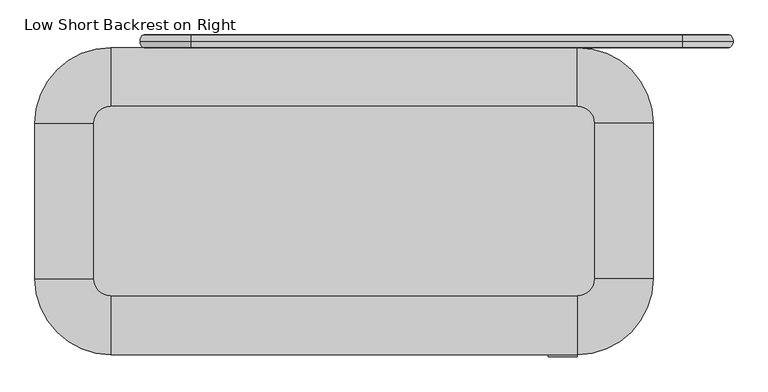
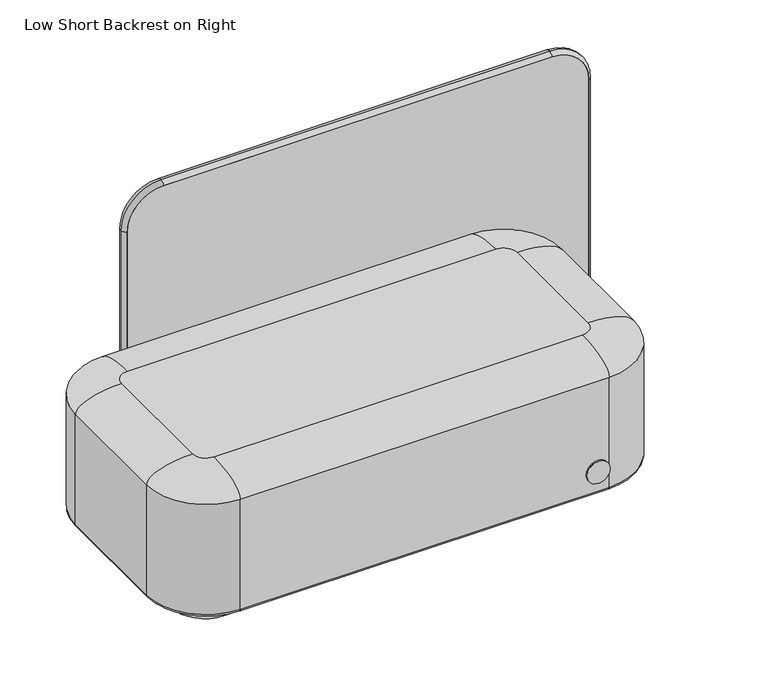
"""IFC4 building model written with IfcOpenShell, lengths in millimetres: furniture geometry, PODLounge  : Low Short Backrest on Right."""

from ifc_helpers import new_model, si_unit, point, frame, frame_2d, origin, origin_with_axes, place, context, project, spatial, polyline, circle_curve, ellipse_curve, trimmed, segment, composite_curve, outline, extrude, source, transform, mapped, element, save
from ifc_brep_helpers import plane_surface, cylinder_surface, revolved_surface, extruded_surface, advanced_brep


def low_short_backrest_on_right_28d253ee(model_context):
    return source(origin(), model_context, "Body", "SolidModel", [
        advanced_brep(
        [(-329.9999916, 380.0, 12.0), (-360.0000084, 380.0, 12.0), (-350.0, 380.0, 12.0), (-340.0, 380.0, 12.0), (-350.0, 380.0, 37.4784241), (-340.0, 380.0, 37.4784241), (-345.0, 380.0, 37.4784241), (-345.0, 380.0, 0.0), (-360.0000084, 380.0, 0.0), (-329.9999916, 380.0, 0.0)],
        [
            (0, 1, circle_curve(frame((-345.0, 380.0, 12.0), z_axis=(0.0, 0.0, 1.0), x_axis=(-1.0, 0.0, 0.0)), 15.0000084)),
            (1, 2),
            (2, 3, circle_curve(frame((-345.0, 380.0, 12.0), z_axis=(0.0, 0.0, -1.0), x_axis=(-1.0, 0.0, 0.0)), 5.0)),
            (3, 0),
            (1, 0, circle_curve(frame((-345.0, 380.0, 12.0), z_axis=(0.0, 0.0, 1.0), x_axis=(-1.0, 0.0, 0.0)), 15.0000084)),
            (3, 2, circle_curve(frame((-345.0, 380.0, 12.0), z_axis=(0.0, 0.0, -1.0), x_axis=(-1.0, 0.0, 0.0)), 5.0)),
            (2, 4),
            (4, 5, circle_curve(frame((-345.0, 380.0, 37.4784241), z_axis=(0.0, 0.0, -1.0), x_axis=(-1.0, 0.0, 0.0)), 5.0)),
            (5, 3),
            (5, 4, circle_curve(frame((-345.0, 380.0, 37.4784241), z_axis=(0.0, 0.0, -1.0), x_axis=(-1.0, 0.0, 0.0)), 5.0)),
            (4, 6),
            (6, 5),
            (7, 8),
            (8, 9, circle_curve(frame((-345.0, 380.0, 0.0), z_axis=(0.0, 0.0, -1.0), x_axis=(-1.0, 0.0, 0.0)), 15.0000084)),
            (9, 7),
            (9, 8, circle_curve(frame((-345.0, 380.0, 0.0), z_axis=(0.0, 0.0, -1.0), x_axis=(-1.0, 0.0, 0.0)), 15.0000084)),
            (8, 1),
            (0, 9),
        ],
        [
            plane_surface(frame((-345.0, 380.0, 12.0), z_axis=(0.0, 0.0, 1.0), x_axis=(-1.0, 0.0, 0.0))),
            cylinder_surface(frame((-345.0, 380.0, 37.4784241), z_axis=(0.0, 0.0, -1.0), x_axis=(-1.0, 0.0, 0.0)), 5.0),
            plane_surface(frame((-345.0, 380.0, 37.4784241), z_axis=(0.0, 0.0, 1.0), x_axis=(-1.0, 0.0, 0.0))),
            plane_surface(frame((-345.0, 380.0, 0.0), z_axis=(0.0, 0.0, -1.0), x_axis=(-1.0, 0.0, 0.0))),
            cylinder_surface(frame((-345.0, 380.0, 37.4784241), z_axis=(0.0, 0.0, -1.0), x_axis=(-1.0, 0.0, 0.0)), 15.0000084),
        ],
        [
            (0, [[1, 2, 3, 4]]),
            (0, [[5, -4, 6, -2]]),
            (1, [[-3, 7, 8, 9]]),
            (1, [[-6, -9, 10, -7]]),
            (2, [[-8, 11, 12]]),
            (2, [[-10, -12, -11]]),
            (3, [[13, 14, 15]]),
            (3, [[-15, 16, -13]]),
            (4, [[-14, 17, -1, 18]]),
            (4, [[-16, -18, -5, -17]]),
        ],
    ),
        advanced_brep(
        [(769.9999916, 380.0, 12.0), (780.0, 380.0, 12.0), (790.0, 380.0, 12.0), (800.0000084, 380.0, 12.0), (780.0, 380.0, 37.4784241), (790.0, 380.0, 37.4784241), (785.0, 380.0, 37.4784241), (785.0, 380.0, 0.0), (769.9999916, 380.0, 0.0), (800.0000084, 380.0, 0.0)],
        [
            (0, 1),
            (1, 2, circle_curve(frame((785.0, 380.0, 12.0), z_axis=(0.0, 0.0, -1.0), x_axis=(1.0, 0.0, 0.0)), 5.0)),
            (2, 3),
            (3, 0, circle_curve(frame((785.0, 380.0, 12.0), z_axis=(0.0, 0.0, 1.0), x_axis=(1.0, 0.0, 0.0)), 15.0000084)),
            (2, 1, circle_curve(frame((785.0, 380.0, 12.0), z_axis=(0.0, 0.0, -1.0), x_axis=(1.0, 0.0, 0.0)), 5.0)),
            (0, 3, circle_curve(frame((785.0, 380.0, 12.0), z_axis=(0.0, 0.0, 1.0), x_axis=(1.0, 0.0, 0.0)), 15.0000084)),
            (1, 4),
            (4, 5, circle_curve(frame((785.0, 380.0, 37.4784241), z_axis=(0.0, 0.0, -1.0), x_axis=(1.0, 0.0, 0.0)), 5.0)),
            (5, 2),
            (5, 4, circle_curve(frame((785.0, 380.0, 37.4784241), z_axis=(0.0, 0.0, -1.0), x_axis=(1.0, 0.0, 0.0)), 5.0)),
            (4, 6),
            (6, 5),
            (7, 8),
            (8, 9, circle_curve(frame((785.0, 380.0, 0.0), z_axis=(0.0, 0.0, -1.0), x_axis=(1.0, 0.0, 0.0)), 15.0000084)),
            (9, 7),
            (9, 8, circle_curve(frame((785.0, 380.0, 0.0), z_axis=(0.0, 0.0, -1.0), x_axis=(1.0, 0.0, 0.0)), 15.0000084)),
            (8, 0),
            (3, 9),
        ],
        [
            plane_surface(frame((785.0, 380.0, 12.0), z_axis=(0.0, 0.0, 1.0), x_axis=(1.0, 0.0, 0.0))),
            cylinder_surface(frame((785.0, 380.0, 37.4784241), z_axis=(0.0, 0.0, -1.0), x_axis=(1.0, 0.0, 0.0)), 5.0),
            plane_surface(frame((785.0, 380.0, 37.4784241), z_axis=(0.0, 0.0, 1.0), x_axis=(1.0, 0.0, 0.0))),
            plane_surface(frame((785.0, 380.0, 0.0), z_axis=(0.0, 0.0, -1.0), x_axis=(1.0, 0.0, 0.0))),
            cylinder_surface(frame((785.0, 380.0, 37.4784241), z_axis=(0.0, 0.0, -1.0), x_axis=(1.0, 0.0, 0.0)), 15.0000084),
        ],
        [
            (0, [[1, 2, 3, 4]]),
            (0, [[-3, 5, -1, 6]]),
            (1, [[7, 8, 9, -2]]),
            (1, [[-9, 10, -7, -5]]),
            (2, [[11, 12, -8]]),
            (2, [[-12, -11, -10]]),
            (3, [[13, 14, 15]]),
            (3, [[-15, 16, -13]]),
            (4, [[17, -4, 18, -14]]),
            (4, [[-18, -6, -17, -16]]),
        ],
    ),
        advanced_brep(
        [(915.0, 395.0, 790.0), (915.0, 365.0, 790.0), (805.0, 365.0, 900.0), (805.0, 395.0, 900.0), (915.0, 395.0, 150.0), (915.0, 365.0, 150.0), (805.0, 395.0, 40.0), (805.0, 365.0, 40.0), (-365.0, 395.0, 40.0), (-365.0, 365.0, 40.0), (-475.0, 395.0, 150.0), (-475.0, 365.0, 150.0), (-475.0, 395.0, 790.0), (-475.0, 365.0, 790.0), (-365.0, 395.0, 900.0), (-365.0, 365.0, 900.0), (924.9992342, 379.8143612, 790.0), (805.0, 379.8143612, 909.9992342), (924.9992342, 379.8143612, 150.0), (805.0, 379.8143612, 30.0007658), (-365.0, 379.8143612, 30.0007658), (-484.9992342, 379.8143612, 150.0), (-484.9992342, 379.8143612, 790.0), (-365.0, 379.8143612, 909.9992342)],
        [
            (0, 1),
            (1, 2, circle_curve(frame((805.0, 365.0, 790.0), z_axis=(0.0, -1.0, 0.0), x_axis=(0.0, 0.0, 1.0)), 110.0)),
            (2, 3),
            (3, 0, circle_curve(frame((805.0, 395.0, 790.0), z_axis=(0.0, 1.0, 0.0), x_axis=(0.0, 0.0, 1.0)), 110.0)),
            (0, 4),
            (4, 5),
            (5, 1),
            (6, 7),
            (7, 5, circle_curve(frame((805.0, 365.0, 150.0), z_axis=(0.0, -1.0, 0.0), x_axis=(1.0, 0.0, 0.0)), 110.0)),
            (4, 6, circle_curve(frame((805.0, 395.0, 150.0), z_axis=(0.0, 1.0, 0.0), x_axis=(1.0, 0.0, 0.0)), 110.0)),
            (6, 8),
            (8, 9),
            (9, 7),
            (10, 11),
            (11, 9, circle_curve(frame((-365.0, 365.0, 150.0), z_axis=(0.0, -1.0, 0.0), x_axis=(0.0, 0.0, -1.0)), 110.0)),
            (8, 10, circle_curve(frame((-365.0, 395.0, 150.0), z_axis=(0.0, 1.0, 0.0), x_axis=(0.0, 0.0, -1.0)), 110.0)),
            (10, 12),
            (12, 13),
            (13, 11),
            (14, 15),
            (15, 13, circle_curve(frame((-365.0, 365.0, 790.0), z_axis=(0.0, -1.0, 0.0), x_axis=(-1.0, 0.0, 0.0)), 110.0)),
            (12, 14, circle_curve(frame((-365.0, 395.0, 790.0), z_axis=(0.0, 1.0, 0.0), x_axis=(-1.0, 0.0, 0.0)), 110.0)),
            (14, 3),
            (2, 15),
            (16, 0, ellipse_curve(frame((915.0, 380.0, 790.0), z_axis=(0.0, 0.0, 1.0), x_axis=(0.0, 1.0, 0.0)), 15.0, 10.0)),
            (3, 17, ellipse_curve(frame((805.0, 380.0, 900.0), z_axis=(1.0, 0.0, 0.0), x_axis=(0.0, 1.0, 0.0)), 15.0, 10.0)),
            (17, 16, circle_curve(frame((805.0, 379.8143612, 790.0), z_axis=(0.0, 1.0, 0.0), x_axis=(0.0, 0.0, 1.0)), 119.9992342)),
            (1, 16, ellipse_curve(frame((915.0, 380.0, 790.0), z_axis=(0.0, 0.0, 1.0), x_axis=(0.0, 1.0, 0.0)), 15.0, 10.0)),
            (17, 2, ellipse_curve(frame((805.0, 380.0, 900.0), z_axis=(1.0, 0.0, 0.0), x_axis=(0.0, 1.0, 0.0)), 15.0, 10.0)),
            (16, 18),
            (18, 4, ellipse_curve(frame((915.0, 380.0, 150.0), z_axis=(0.0, 0.0, 1.0), x_axis=(0.0, 1.0, 0.0)), 15.0, 10.0)),
            (5, 18, ellipse_curve(frame((915.0, 380.0, 150.0), z_axis=(0.0, 0.0, 1.0), x_axis=(0.0, 1.0, 0.0)), 15.0, 10.0)),
            (19, 6, ellipse_curve(frame((805.0, 380.0, 40.0), z_axis=(1.0, 0.0, 0.0), x_axis=(0.0, 1.0, 0.0)), 15.0, 10.0)),
            (18, 19, circle_curve(frame((805.0, 379.8143612, 150.0), z_axis=(0.0, 1.0, 0.0), x_axis=(1.0, 0.0, 0.0)), 119.9992342)),
            (7, 19, ellipse_curve(frame((805.0, 380.0, 40.0), z_axis=(1.0, 0.0, 0.0), x_axis=(0.0, 1.0, 0.0)), 15.0, 10.0)),
            (19, 20),
            (20, 8, ellipse_curve(frame((-365.0, 380.0, 40.0), z_axis=(1.0, 0.0, 0.0), x_axis=(0.0, 1.0, 0.0)), 15.0, 10.0)),
            (9, 20, ellipse_curve(frame((-365.0, 380.0, 40.0), z_axis=(1.0, 0.0, 0.0), x_axis=(0.0, 1.0, 0.0)), 15.0, 10.0)),
            (21, 10, ellipse_curve(frame((-475.0, 380.0, 150.0), z_axis=(0.0, 0.0, -1.0), x_axis=(0.0, 1.0, 0.0)), 15.0, 10.0)),
            (20, 21, circle_curve(frame((-365.0, 379.8143612, 150.0), z_axis=(0.0, 1.0, 0.0), x_axis=(0.0, 0.0, -1.0)), 119.9992342)),
            (11, 21, ellipse_curve(frame((-475.0, 380.0, 150.0), z_axis=(0.0, 0.0, -1.0), x_axis=(0.0, 1.0, 0.0)), 15.0, 10.0)),
            (21, 22),
            (22, 12, ellipse_curve(frame((-475.0, 380.0, 790.0), z_axis=(0.0, 0.0, -1.0), x_axis=(0.0, 1.0, 0.0)), 15.0, 10.0)),
            (13, 22, ellipse_curve(frame((-475.0, 380.0, 790.0), z_axis=(0.0, 0.0, -1.0), x_axis=(0.0, 1.0, 0.0)), 15.0, 10.0)),
            (23, 14, ellipse_curve(frame((-365.0, 380.0, 900.0), z_axis=(-1.0, 0.0, 0.0), x_axis=(0.0, 1.0, 0.0)), 15.0, 10.0)),
            (22, 23, circle_curve(frame((-365.0, 379.8143612, 790.0), z_axis=(0.0, 1.0, 0.0), x_axis=(-1.0, 0.0, 0.0)), 119.9992342)),
            (15, 23, ellipse_curve(frame((-365.0, 380.0, 900.0), z_axis=(-1.0, 0.0, 0.0), x_axis=(0.0, 1.0, 0.0)), 15.0, 10.0)),
            (23, 17),
        ],
        [
            revolved_surface(polyline([(805.0, 365.0, 900.0), (805.0, 395.0, 900.0)]), (805.0, 395.0, 790.0), (0.0, -1.0, 0.0)),
            plane_surface(frame((915.0, 365.0, 790.0), z_axis=(-1.0, 0.0, 0.0), x_axis=(0.0, 0.0, -1.0))),
            revolved_surface(polyline([(915.0, 365.0, 150.0), (915.0, 395.0, 150.0)]), (805.0, 395.0, 150.0), (0.0, -1.0, 0.0)),
            plane_surface(frame((805.0, 365.0, 40.0), z_axis=(0.0, 0.0, 1.0), x_axis=(-1.0, 0.0, 0.0))),
            revolved_surface(polyline([(-365.0, 365.0, 40.0), (-365.0, 395.0, 40.0)]), (-365.0, 395.0, 150.0), (0.0, -1.0, 0.0)),
            plane_surface(frame((-475.0, 365.0, 150.0), z_axis=(1.0, 0.0, 0.0), x_axis=(0.0, 0.0, 1.0))),
            revolved_surface(polyline([(-475.0, 365.0, 790.0), (-475.0, 395.0, 790.0)]), (-365.0, 395.0, 790.0), (0.0, -1.0, 0.0)),
            plane_surface(frame((-365.0, 365.0, 900.0), z_axis=(0.0, 0.0, -1.0), x_axis=(1.0, 0.0, 0.0))),
            revolved_surface(trimmed(ellipse_curve(frame((805.0, 380.0, 900.0), z_axis=(1.0, 0.0, 0.0), x_axis=(0.0, 1.0, 0.0)), 15.0, 10.0), [point((805.0, 395.0, 900.0))], [point((805.0, 379.8143612, 909.9992342))], True, "CARTESIAN"), (805.0, 395.0, 790.0), (0.0, -1.0, 0.0)),
            revolved_surface(trimmed(ellipse_curve(frame((805.0, 380.0, 900.0), z_axis=(1.0, 0.0, 0.0), x_axis=(0.0, 1.0, 0.0)), 15.0, 10.0), [point((805.0, 379.8143612, 909.9992342))], [point((805.0, 365.0, 900.0))], True, "CARTESIAN"), (805.0, 395.0, 790.0), (0.0, -1.0, 0.0)),
            extruded_surface(trimmed(ellipse_curve(frame((915.0, 380.0, 790.0), z_axis=(0.0, 0.0, -1.0), x_axis=(0.0, 1.0, 0.0)), 15.0, 10.0), [point((915.0, 395.0, 790.0))], [point((924.9992342, 379.8143612, 790.0))], True, "CARTESIAN"), (0.0, 0.0, -640.0), 640.0),
            extruded_surface(trimmed(ellipse_curve(frame((915.0, 380.0, 790.0), z_axis=(0.0, 0.0, -1.0), x_axis=(0.0, 1.0, 0.0)), 15.0, 10.0), [point((924.9992342, 379.8143612, 790.0))], [point((915.0, 365.0, 790.0))], True, "CARTESIAN"), (0.0, 0.0, -640.0), 640.0),
            revolved_surface(trimmed(ellipse_curve(frame((915.0, 380.0, 150.0), z_axis=(0.0, 0.0, -1.0), x_axis=(0.0, 1.0, 0.0)), 15.0, 10.0), [point((915.0, 395.0, 150.0))], [point((924.9992342, 379.8143612, 150.0))], True, "CARTESIAN"), (805.0, 395.0, 150.0), (0.0, -1.0, 0.0)),
            revolved_surface(trimmed(ellipse_curve(frame((915.0, 380.0, 150.0), z_axis=(0.0, 0.0, -1.0), x_axis=(0.0, 1.0, 0.0)), 15.0, 10.0), [point((924.9992342, 379.8143612, 150.0))], [point((915.0, 365.0, 150.0))], True, "CARTESIAN"), (805.0, 395.0, 150.0), (0.0, -1.0, 0.0)),
            extruded_surface(trimmed(ellipse_curve(frame((805.0, 380.0, 40.0), z_axis=(-1.0, 0.0, 0.0), x_axis=(0.0, 1.0, 0.0)), 15.0, 10.0), [point((805.0, 395.0, 40.0))], [point((805.0, 379.8143612, 30.0007658))], True, "CARTESIAN"), (-1170.0, 0.0, 0.0), 1170.0),
            extruded_surface(trimmed(ellipse_curve(frame((805.0, 380.0, 40.0), z_axis=(-1.0, 0.0, 0.0), x_axis=(0.0, 1.0, 0.0)), 15.0, 10.0), [point((805.0, 379.8143612, 30.0007658))], [point((805.0, 365.0, 40.0))], True, "CARTESIAN"), (-1170.0, 0.0, 0.0), 1170.0),
            revolved_surface(trimmed(ellipse_curve(frame((-365.0, 380.0, 40.0), z_axis=(-1.0, 0.0, 0.0), x_axis=(0.0, 1.0, 0.0)), 15.0, 10.0), [point((-365.0, 395.0, 40.0))], [point((-365.0, 379.8143612, 30.0007658))], True, "CARTESIAN"), (-365.0, 395.0, 150.0), (0.0, -1.0, 0.0)),
            revolved_surface(trimmed(ellipse_curve(frame((-365.0, 380.0, 40.0), z_axis=(-1.0, 0.0, 0.0), x_axis=(0.0, 1.0, 0.0)), 15.0, 10.0), [point((-365.0, 379.8143612, 30.0007658))], [point((-365.0, 365.0, 40.0))], True, "CARTESIAN"), (-365.0, 395.0, 150.0), (0.0, -1.0, 0.0)),
            extruded_surface(trimmed(ellipse_curve(frame((-475.0, 380.0, 150.0), z_axis=(0.0, 0.0, 1.0), x_axis=(0.0, 1.0, 0.0)), 15.0, 10.0), [point((-475.0, 395.0, 150.0))], [point((-484.9992342, 379.8143612, 150.0))], True, "CARTESIAN"), (0.0, 0.0, 640.0), 640.0),
            extruded_surface(trimmed(ellipse_curve(frame((-475.0, 380.0, 150.0), z_axis=(0.0, 0.0, 1.0), x_axis=(0.0, 1.0, 0.0)), 15.0, 10.0), [point((-484.9992342, 379.8143612, 150.0))], [point((-475.0, 365.0, 150.0))], True, "CARTESIAN"), (0.0, 0.0, 640.0), 640.0),
            revolved_surface(trimmed(ellipse_curve(frame((-475.0, 380.0, 790.0), z_axis=(0.0, 0.0, 1.0), x_axis=(0.0, 1.0, 0.0)), 15.0, 10.0), [point((-475.0, 395.0, 790.0))], [point((-484.9992342, 379.8143612, 790.0))], True, "CARTESIAN"), (-365.0, 395.0, 790.0), (0.0, -1.0, 0.0)),
            revolved_surface(trimmed(ellipse_curve(frame((-475.0, 380.0, 790.0), z_axis=(0.0, 0.0, 1.0), x_axis=(0.0, 1.0, 0.0)), 15.0, 10.0), [point((-484.9992342, 379.8143612, 790.0))], [point((-475.0, 365.0, 790.0))], True, "CARTESIAN"), (-365.0, 395.0, 790.0), (0.0, -1.0, 0.0)),
            extruded_surface(trimmed(ellipse_curve(frame((-365.0, 380.0, 900.0), z_axis=(1.0, 0.0, 0.0), x_axis=(0.0, 1.0, 0.0)), 15.0, 10.0), [point((-365.0, 395.0, 900.0))], [point((-365.0, 379.8143612, 909.9992342))], True, "CARTESIAN"), (1170.0, 0.0, 0.0), 1170.0),
            extruded_surface(trimmed(ellipse_curve(frame((-365.0, 380.0, 900.0), z_axis=(1.0, 0.0, 0.0), x_axis=(0.0, 1.0, 0.0)), 15.0, 10.0), [point((-365.0, 379.8143612, 909.9992342))], [point((-365.0, 365.0, 900.0))], True, "CARTESIAN"), (1170.0, 0.0, 0.0), 1170.0),
        ],
        [
            (0, [[1, 2, 3, 4]]),
            (1, [[5, 6, 7, -1]]),
            (2, [[8, 9, -6, 10]]),
            (3, [[11, 12, 13, -8]]),
            (4, [[14, 15, -12, 16]]),
            (5, [[17, 18, 19, -14]]),
            (6, [[20, 21, -18, 22]]),
            (7, [[23, -3, 24, -20]]),
            (8, [[25, -4, 26, 27]]),
            (9, [[28, -27, 29, -2]]),
            (10, [[30, 31, -5, -25]]),
            (11, [[-7, 32, -30, -28]]),
            (12, [[33, -10, -31, 34]]),
            (13, [[35, -34, -32, -9]]),
            (14, [[36, 37, -11, -33]]),
            (15, [[-13, 38, -36, -35]]),
            (16, [[39, -16, -37, 40]]),
            (17, [[41, -40, -38, -15]]),
            (18, [[42, 43, -17, -39]]),
            (19, [[-19, 44, -42, -41]]),
            (20, [[45, -22, -43, 46]]),
            (21, [[47, -46, -44, -21]]),
            (22, [[48, -26, -23, -45]]),
            (23, [[-24, -29, -48, -47]]),
        ],
    ),
        extrude(outline(composite_curve([segment(polyline([(900.0, 805.0), (900.0, -365.0)]), True, "CONTINUOUS"), segment(trimmed(circle_curve(frame_2d((790.0, -365.0)), 110.0), [point((900.0, -365.0))], [point((790.0, -475.0))], False, "CARTESIAN"), True, "CONTINUOUS"), segment(polyline([(790.0, -475.0), (150.0, -475.0)]), True, "CONTINUOUS"), segment(trimmed(circle_curve(frame_2d((150.0, -365.0)), 110.0), [point((150.0, -475.0))], [point((40.0, -365.0))], False, "CARTESIAN"), True, "CONTINUOUS"), segment(polyline([(40.0, -365.0), (40.0, 805.0)]), True, "CONTINUOUS"), segment(trimmed(circle_curve(frame_2d((150.0, 805.0)), 110.0), [point((40.0, 805.0))], [point((150.0, 915.0))], False, "CARTESIAN"), True, "CONTINUOUS"), segment(polyline([(150.0, 915.0), (790.0, 915.0)]), True, "CONTINUOUS"), segment(trimmed(circle_curve(frame_2d((790.0, 805.0)), 110.0), [point((790.0, 915.0))], [point((900.0, 805.0))], False, "CARTESIAN"), True, "CONTINUOUS")], self_intersect=False)), frame((0.0, 365.0, 0.0), z_axis=(0.0, 1.0, 0.0), x_axis=(0.0, 0.0, 1.0)), (0.0, 0.0, 1.0), 30.0),
        advanced_brep(
        [(-555.0, 225.0, 460.0), (-595.0, 185.0, 460.0), (-595.0, -185.0, 460.0), (-555.0, -225.0, 460.0), (555.0, -225.0, 460.0), (595.0, -185.0, 460.0), (595.0, 185.0, 460.0), (555.0, 225.0, 460.0), (-725.0, 185.0, 50.0), (-555.0, 355.0, 50.0), (555.0, 355.0, 50.0), (725.0, 185.0, 50.0), (725.0, -185.0, 50.0), (555.0, -355.0, 50.0), (-555.0, -355.0, 50.0), (-725.0, -185.0, 50.0), (555.0, -365.0, 410.0), (555.0, -365.0, 60.0), (735.0, -185.0, 60.0), (735.0, -185.0, 410.0), (735.0, 185.0, 60.0), (735.0, 185.0, 410.0), (555.0, 365.0, 60.0), (555.0, 365.0, 410.0), (-555.0, 365.0, 60.0), (-555.0, 365.0, 410.0), (-735.0, 185.0, 410.0), (-735.0, 185.0, 60.0), (-735.0, -185.0, 60.0), (-735.0, -185.0, 410.0), (-555.0, -365.0, 410.0), (-555.0, -365.0, 60.0)],
        [
            (0, 1, circle_curve(frame((-555.0, 185.0, 460.0), z_axis=(0.0, 0.0, 1.0), x_axis=(0.0, 1.0, 0.0)), 40.0)),
            (1, 2),
            (2, 3, circle_curve(frame((-555.0, -185.0, 460.0), z_axis=(0.0, 0.0, 1.0), x_axis=(-1.0, 0.0, 0.0)), 40.0)),
            (3, 4),
            (4, 5, circle_curve(frame((555.0, -185.0, 460.0), z_axis=(0.0, 0.0, 1.0), x_axis=(0.0, -1.0, 0.0)), 40.0)),
            (5, 6),
            (6, 7, circle_curve(frame((555.0, 185.0, 460.0), z_axis=(0.0, 0.0, 1.0), x_axis=(1.0, 0.0, 0.0)), 40.0)),
            (7, 0),
            (8, 9, circle_curve(frame((-555.0, 185.0, 50.0), z_axis=(0.0, 0.0, -1.0), x_axis=(0.0, 1.0, 0.0)), 170.0)),
            (9, 10),
            (10, 11, circle_curve(frame((555.0, 185.0, 50.0), z_axis=(0.0, 0.0, -1.0), x_axis=(1.0, 0.0, 0.0)), 170.0)),
            (11, 12),
            (12, 13, circle_curve(frame((555.0, -185.0, 50.0), z_axis=(0.0, 0.0, -1.0), x_axis=(0.0, -1.0, 0.0)), 170.0)),
            (13, 14),
            (14, 15, circle_curve(frame((-555.0, -185.0, 50.0), z_axis=(0.0, 0.0, -1.0), x_axis=(-1.0, 0.0, 0.0)), 170.0)),
            (15, 8),
            (16, 17),
            (17, 18, circle_curve(frame((555.0, -185.0, 60.0), z_axis=(0.0, 0.0, 1.0), x_axis=(1.0, 0.0, 0.0)), 180.0)),
            (18, 19),
            (19, 16, circle_curve(frame((555.0, -185.0, 410.0), z_axis=(0.0, 0.0, -1.0), x_axis=(1.0, 0.0, 0.0)), 180.0)),
            (18, 20),
            (20, 21),
            (21, 19),
            (20, 22, circle_curve(frame((555.0, 185.0, 60.0), z_axis=(0.0, 0.0, 1.0), x_axis=(1.0, 0.0, 0.0)), 180.0)),
            (22, 23),
            (23, 21, circle_curve(frame((555.0, 185.0, 410.0), z_axis=(0.0, 0.0, -1.0), x_axis=(1.0, 0.0, 0.0)), 180.0)),
            (22, 24),
            (24, 25),
            (25, 23),
            (26, 27),
            (27, 28),
            (28, 29),
            (29, 26),
            (16, 30),
            (30, 31),
            (31, 17),
            (26, 25, circle_curve(frame((-555.0, 185.0, 410.0), z_axis=(0.0, 0.0, -1.0), x_axis=(1.0, 0.0, 0.0)), 180.0)),
            (24, 27, circle_curve(frame((-555.0, 185.0, 60.0), z_axis=(0.0, 0.0, 1.0), x_axis=(1.0, 0.0, 0.0)), 180.0)),
            (30, 29, circle_curve(frame((-555.0, -185.0, 410.0), z_axis=(0.0, 0.0, -1.0), x_axis=(1.0, 0.0, 0.0)), 180.0)),
            (28, 31, circle_curve(frame((-555.0, -185.0, 60.0), z_axis=(0.0, 0.0, 1.0), x_axis=(1.0, 0.0, 0.0)), 180.0)),
            (26, 1, ellipse_curve(frame((-595.0, 185.0, 410.0), z_axis=(0.0, 1.0, 0.0), x_axis=(-1.0, 0.0, 0.0)), 140.0, 50.0)),
            (0, 25, ellipse_curve(frame((-555.0, 225.0, 410.0), z_axis=(-1.0, 0.0, 0.0), x_axis=(0.0, 1.0, 0.0)), 140.0, 50.0)),
            (29, 2, ellipse_curve(frame((-595.0, -185.0, 410.0), z_axis=(0.0, 1.0, 0.0), x_axis=(-1.0, 0.0, 0.0)), 140.0, 50.0)),
            (30, 3, ellipse_curve(frame((-555.0, -225.0, 410.0), z_axis=(-1.0, 0.0, 0.0), x_axis=(0.0, -1.0, 0.0)), 140.0, 50.0)),
            (16, 4, ellipse_curve(frame((555.0, -225.0, 410.0), z_axis=(-1.0, 0.0, 0.0), x_axis=(0.0, -1.0, 0.0)), 140.0, 50.0)),
            (19, 5, ellipse_curve(frame((595.0, -185.0, 410.0), z_axis=(0.0, -1.0, 0.0), x_axis=(1.0, 0.0, 0.0)), 140.0, 50.0)),
            (21, 6, ellipse_curve(frame((595.0, 185.0, 410.0), z_axis=(0.0, -1.0, 0.0), x_axis=(1.0, 0.0, 0.0)), 140.0, 50.0)),
            (23, 7, ellipse_curve(frame((555.0, 225.0, 410.0), z_axis=(1.0, 0.0, 0.0), x_axis=(0.0, 1.0, 0.0)), 140.0, 50.0)),
            (8, 27, circle_curve(frame((-725.0, 185.0, 60.0), z_axis=(0.0, 1.0, 0.0), x_axis=(1.0, 0.0, 0.0)), 10.0)),
            (24, 9, circle_curve(frame((-555.0, 355.0, 60.0), z_axis=(-1.0, 0.0, 0.0), x_axis=(0.0, -1.0, 0.0)), 10.0)),
            (15, 28, circle_curve(frame((-725.0, -185.0, 60.0), z_axis=(0.0, 1.0, 0.0), x_axis=(1.0, 0.0, 0.0)), 10.0)),
            (14, 31, circle_curve(frame((-555.0, -355.0, 60.0), z_axis=(-1.0, 0.0, 0.0), x_axis=(0.0, 1.0, 0.0)), 10.0)),
            (13, 17, circle_curve(frame((555.0, -355.0, 60.0), z_axis=(-1.0, 0.0, 0.0), x_axis=(0.0, 1.0, 0.0)), 10.0)),
            (12, 18, circle_curve(frame((725.0, -185.0, 60.0), z_axis=(0.0, -1.0, 0.0), x_axis=(-1.0, 0.0, 0.0)), 10.0)),
            (11, 20, circle_curve(frame((725.0, 185.0, 60.0), z_axis=(0.0, -1.0, 0.0), x_axis=(-1.0, 0.0, 0.0)), 10.0)),
            (10, 22, circle_curve(frame((555.0, 355.0, 60.0), z_axis=(1.0, 0.0, 0.0), x_axis=(0.0, -1.0, 0.0)), 10.0)),
        ],
        [
            plane_surface(frame((735.0, -185.0, 460.0), z_axis=(0.0, 0.0, 1.0), x_axis=(0.0, 1.0, 0.0))),
            plane_surface(frame((735.0, -185.0, 50.0), z_axis=(0.0, 0.0, -1.0), x_axis=(0.0, -1.0, 0.0))),
            cylinder_surface(frame((555.0, -185.0, 50.0), z_axis=(0.0, 0.0, 1.0), x_axis=(1.0, 0.0, 0.0)), 180.0),
            plane_surface(frame((735.0, -185.0, 460.0), z_axis=(1.0, 0.0, 0.0), x_axis=(0.0, 0.0, -1.0))),
            cylinder_surface(frame((555.0, 185.0, 50.0), z_axis=(0.0, 0.0, 1.0), x_axis=(1.0, 0.0, 0.0)), 180.0),
            plane_surface(frame((555.0, 365.0, 460.0), z_axis=(0.0, 1.0, 0.0), x_axis=(0.0, 0.0, -1.0))),
            plane_surface(frame((-735.0, 185.0, 460.0), z_axis=(-1.0, 0.0, 0.0), x_axis=(0.0, 0.0, -1.0))),
            plane_surface(frame((-555.0, -365.0, 460.0), z_axis=(0.0, -1.0, 0.0), x_axis=(0.0, 0.0, -1.0))),
            cylinder_surface(frame((-555.0, 185.0, 50.0), z_axis=(0.0, 0.0, 1.0), x_axis=(1.0, 0.0, 0.0)), 180.0),
            cylinder_surface(frame((-555.0, -185.0, 50.0), z_axis=(0.0, 0.0, 1.0), x_axis=(1.0, 0.0, 0.0)), 180.0),
            revolved_surface(trimmed(ellipse_curve(frame((-555.0, 225.0, 410.0), z_axis=(1.0, 0.0, 0.0), x_axis=(0.0, 1.0, 0.0)), 140.0, 50.0), [point((-555.0, 365.0, 410.0))], [point((-555.0, 225.0, 460.0))], True, "CARTESIAN"), (-555.0, 185.0, 0.0), (0.0, 0.0, 1.0)),
            extruded_surface(trimmed(ellipse_curve(frame((-595.0, 185.0, 410.0), z_axis=(0.0, -1.0, 0.0), x_axis=(-1.0, 0.0, 0.0)), 140.0, 50.0), [point((-595.0, 185.0, 460.0))], [point((-735.0, 185.0, 410.0))], True, "CARTESIAN"), (0.0, -370.0, 0.0), 370.0),
            revolved_surface(trimmed(ellipse_curve(frame((-595.0, -185.0, 410.0), z_axis=(0.0, 1.0, 0.0), x_axis=(-1.0, 0.0, 0.0)), 140.0, 50.0), [point((-735.0, -185.0, 410.0))], [point((-595.0, -185.0, 460.0))], True, "CARTESIAN"), (-555.0, -185.0, 0.0), (0.0, 0.0, 1.0)),
            extruded_surface(trimmed(ellipse_curve(frame((-555.0, -225.0, 410.0), z_axis=(1.0, 0.0, 0.0), x_axis=(0.0, -1.0, 0.0)), 140.0, 50.0), [point((-555.0, -225.0, 460.0))], [point((-555.0, -365.0, 410.0))], True, "CARTESIAN"), (1110.0, 0.0, 0.0), 1110.0),
            revolved_surface(trimmed(ellipse_curve(frame((555.0, -225.0, 410.0), z_axis=(-1.0, 0.0, 0.0), x_axis=(0.0, -1.0, 0.0)), 140.0, 50.0), [point((555.0, -365.0, 410.0))], [point((555.0, -225.0, 460.0))], True, "CARTESIAN"), (555.0, -185.0, 0.0), (0.0, 0.0, 1.0)),
            extruded_surface(trimmed(ellipse_curve(frame((595.0, -185.0, 410.0), z_axis=(0.0, 1.0, 0.0), x_axis=(1.0, 0.0, 0.0)), 140.0, 50.0), [point((595.0, -185.0, 460.0))], [point((735.0, -185.0, 410.0))], True, "CARTESIAN"), (0.0, 370.0, 0.0), 370.0),
            revolved_surface(trimmed(ellipse_curve(frame((595.0, 185.0, 410.0), z_axis=(0.0, -1.0, 0.0), x_axis=(1.0, 0.0, 0.0)), 140.0, 50.0), [point((735.0, 185.0, 410.0))], [point((595.0, 185.0, 460.0))], True, "CARTESIAN"), (555.0, 185.0, 0.0), (0.0, 0.0, 1.0)),
            extruded_surface(trimmed(ellipse_curve(frame((555.0, 225.0, 410.0), z_axis=(-1.0, 0.0, 0.0), x_axis=(0.0, 1.0, 0.0)), 140.0, 50.0), [point((555.0, 225.0, 460.0))], [point((555.0, 365.0, 410.0))], True, "CARTESIAN"), (-1110.0, 0.0, 0.0), 1110.0),
            revolved_surface(trimmed(ellipse_curve(frame((-555.0, 355.0, 60.0), z_axis=(1.0, 0.0, 0.0), x_axis=(0.0, -1.0, 0.0)), 10.0, 10.0), [point((-555.0, 355.0, 50.0))], [point((-555.0, 365.0, 60.0))], True, "CARTESIAN"), (-555.0, 185.0, 0.0), (0.0, 0.0, 1.0)),
            cylinder_surface(frame((-725.0, 185.0, 60.0), z_axis=(0.0, -1.0, 0.0), x_axis=(1.0, 0.0, 0.0)), 10.0),
            revolved_surface(trimmed(ellipse_curve(frame((-725.0, -185.0, 60.0), z_axis=(0.0, 1.0, 0.0), x_axis=(1.0, 0.0, 0.0)), 10.0, 10.0), [point((-725.0, -185.0, 50.0))], [point((-735.0, -185.0, 60.0))], True, "CARTESIAN"), (-555.0, -185.0, 0.0), (0.0, 0.0, 1.0)),
            cylinder_surface(frame((-555.0, -355.0, 60.0), z_axis=(1.0, 0.0, 0.0), x_axis=(0.0, 1.0, 0.0)), 10.0),
            revolved_surface(trimmed(ellipse_curve(frame((555.0, -355.0, 60.0), z_axis=(-1.0, 0.0, 0.0), x_axis=(0.0, 1.0, 0.0)), 10.0, 10.0), [point((555.0, -355.0, 50.0))], [point((555.0, -365.0, 60.0))], True, "CARTESIAN"), (555.0, -185.0, 0.0), (0.0, 0.0, 1.0)),
            cylinder_surface(frame((725.0, -185.0, 60.0), z_axis=(0.0, 1.0, 0.0), x_axis=(-1.0, 0.0, 0.0)), 10.0),
            revolved_surface(trimmed(ellipse_curve(frame((725.0, 185.0, 60.0), z_axis=(0.0, -1.0, 0.0), x_axis=(-1.0, 0.0, 0.0)), 10.0, 10.0), [point((725.0, 185.0, 50.0))], [point((735.0, 185.0, 60.0))], True, "CARTESIAN"), (555.0, 185.0, 0.0), (0.0, 0.0, 1.0)),
            cylinder_surface(frame((555.0, 355.0, 60.0), z_axis=(-1.0, 0.0, 0.0), x_axis=(0.0, -1.0, 0.0)), 10.0),
        ],
        [
            (0, [[1, 2, 3, 4, 5, 6, 7, 8]]),
            (1, [[9, 10, 11, 12, 13, 14, 15, 16]]),
            (2, [[17, 18, 19, 20]]),
            (3, [[-19, 21, 22, 23]]),
            (4, [[-22, 24, 25, 26]]),
            (5, [[-25, 27, 28, 29]]),
            (6, [[30, 31, 32, 33]]),
            (7, [[-17, 34, 35, 36]]),
            (8, [[-30, 37, -28, 38]]),
            (9, [[-35, 39, -32, 40]]),
            (10, [[41, -1, 42, -37]]),
            (11, [[-41, -33, 43, -2]]),
            (12, [[-43, -39, 44, -3]]),
            (13, [[-44, -34, 45, -4]]),
            (14, [[-45, -20, 46, -5]]),
            (15, [[-46, -23, 47, -6]]),
            (16, [[-47, -26, 48, -7]]),
            (17, [[-42, -8, -48, -29]]),
            (18, [[49, -38, 50, -9]]),
            (19, [[-49, -16, 51, -31]]),
            (20, [[-51, -15, 52, -40]]),
            (21, [[-52, -14, 53, -36]]),
            (22, [[-53, -13, 54, -18]]),
            (23, [[-54, -12, 55, -21]]),
            (24, [[-55, -11, 56, -24]]),
            (25, [[-50, -27, -56, -10]]),
        ],
    ),
        extrude(outline(composite_curve([segment(polyline([(565.0, -295.0), (-565.0, -295.0)]), True, "CONTINUOUS"), segment(trimmed(circle_curve(frame_2d((-565.0, -195.0)), 100.0), [point((-565.0, -295.0))], [point((-665.0, -195.0))], False, "CARTESIAN"), True, "CONTINUOUS"), segment(polyline([(-665.0, -195.0), (-665.0, 195.0)]), True, "CONTINUOUS"), segment(trimmed(circle_curve(frame_2d((-565.0, 195.0)), 100.0), [point((-665.0, 195.0))], [point((-565.0, 295.0))], False, "CARTESIAN"), True, "CONTINUOUS"), segment(polyline([(-565.0, 295.0), (565.0, 295.0)]), True, "CONTINUOUS"), segment(trimmed(circle_curve(frame_2d((565.0, 195.0)), 100.0), [point((565.0, 295.0))], [point((665.0, 195.0))], False, "CARTESIAN"), True, "CONTINUOUS"), segment(polyline([(665.0, 195.0), (665.0, -195.0)]), True, "CONTINUOUS"), segment(trimmed(circle_curve(frame_2d((565.0, -195.0)), 100.0), [point((665.0, -195.0))], [point((565.0, -295.0))], False, "CARTESIAN"), True, "CONTINUOUS")], self_intersect=False)), origin_with_axes(), (0.0, 0.0, 1.0), 50.0),
        extrude(outline(composite_curve([segment(trimmed(circle_curve(frame_2d((122.8625944, 520.0)), 35.0), [point((122.8625944, 555.0))], [point((122.8625944, 485.0))], False, "CARTESIAN"), True, "CONTINUOUS"), segment(trimmed(circle_curve(frame_2d((122.8625944, 520.0)), 35.0), [point((122.8625944, 485.0))], [point((122.8625944, 555.0))], False, "CARTESIAN"), True, "CONTINUOUS")], self_intersect=False)), frame((0.0, -370.0, 0.0), z_axis=(0.0, 1.0, 0.0), x_axis=(0.0, 0.0, 1.0)), (0.0, 0.0, 1.0), 5.0),
    ])


if __name__ == "__main__":
    model = new_model("IFC4")
    model_context = context("Model", 3, world=origin())
    ifc_project = project(units=[si_unit("LENGTHUNIT", "METRE", prefix="MILLI")], contexts=[model_context])
    site = spatial("IfcSite", under=ifc_project)
    building = spatial("IfcBuilding", under=site)
    placement = place(None, origin())
    low_short_backrest_on_right_shape = low_short_backrest_on_right_28d253ee(model_context)
    element("IfcFurniture", 1, ObjectType="PODLounge  : Low Short Backrest on Right", at=placement, inside=building, context=model_context, shape_type="MappedRepresentation", body=[
        mapped(low_short_backrest_on_right_shape, transform((0.0, 0.0, 0.0), x_axis=(1.0, 0.0, 0.0), y_axis=(0.0, 1.0, 0.0), z_axis=(0.0, 0.0, 1.0))),
    ])
    save(model, "model.ifc")
